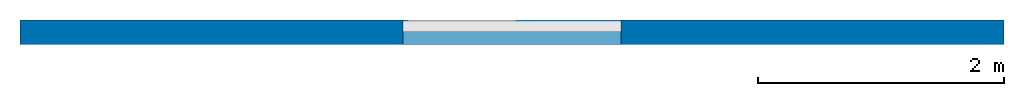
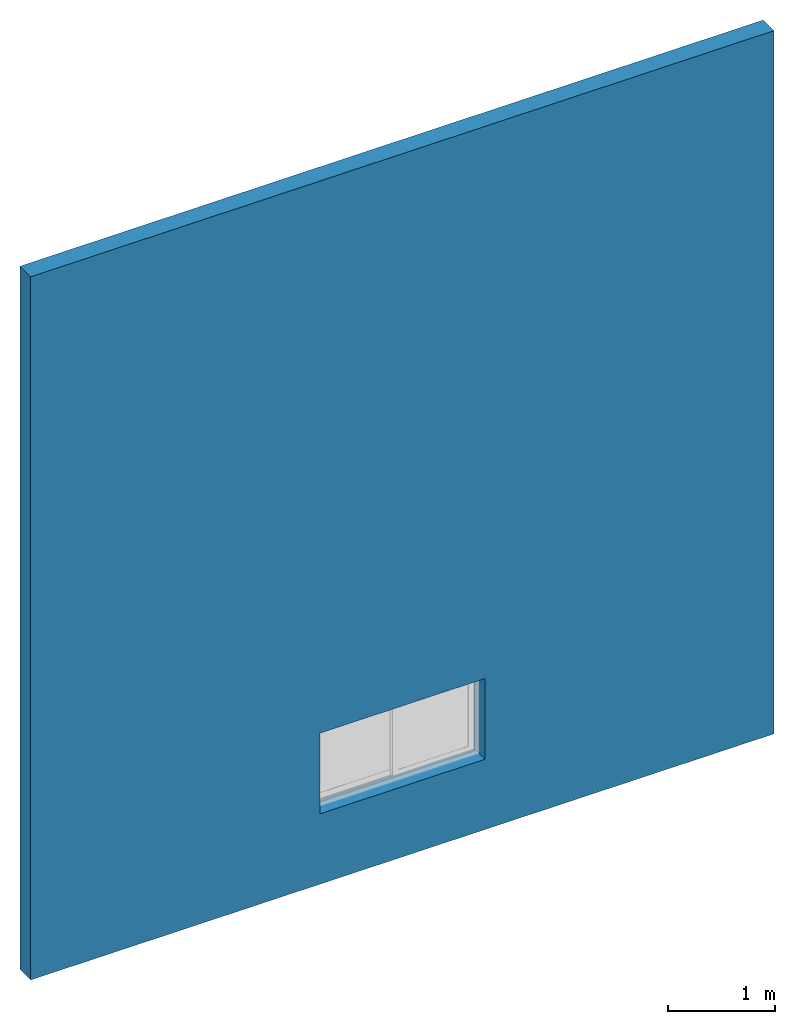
# One storey, incomplete: 1 wall, 1 opening.
"""IFC2X3 building model written with IfcOpenShell, lengths in millimetres."""

import ifcopenshell
import ifcopenshell.guid

model = None  # the IFC model being written
_history = None  # IfcOwnerHistory: only IFC2X3 demands one
_inside = {}  # id of a spatial element -> (the spatial element, [elements in it])
_under = {}  # id of a project, library or spatial element -> (it, [spatial elements below it])
_declared = {}  # id of a project -> (the project, [libraries it declares])
_typed = {}  # id of a type object -> (the type object, [elements of that type])
_made_of = {}  # id of a material, layer set ... -> (it, [elements and type objects made of it])


def new_model(schema):
    """Start an empty IFC model of exactly this schema.

    Asked for "IFC4X3", IfcOpenShell would pick the latest addendum, in which some entities
    have other attributes; the version numbers below select the first issue.
    IFC2X3 requires an IfcOwnerHistory on every rooted entity: one is made here for all.
    """
    global model, _history
    if schema == "IFC4X3":
        model = ifcopenshell.file(schema_version=(4, 3, 0, 0))
    else:
        model = ifcopenshell.file(schema=schema)
    _inside.clear()
    _under.clear()
    _declared.clear()
    _typed.clear()
    _made_of.clear()
    _history = None
    if model.schema == "IFC2X3":
        org = make("IfcOrganization", Name="unknown")
        user = make(
            "IfcPersonAndOrganization",
            ThePerson=make("IfcPerson", FamilyName="unknown"),
            TheOrganization=org,
        )
        app = make(
            "IfcApplication",
            ApplicationDeveloper=org,
            Version="unknown",
            ApplicationFullName="unknown",
            ApplicationIdentifier="unknown",
        )
        _history = make(
            "IfcOwnerHistory",
            OwningUser=user,
            OwningApplication=app,
            ChangeAction="ADDED",
            CreationDate=0,
        )
    return model


def make(cls, **values):
    """One entity of the class cls with the attributes given. An attribute that is None is left unset."""
    return model.create_entity(
        cls, **{name: value for name, value in values.items() if value is not None}
    )


def entity(cls, *values):
    """Any entity or typed value of the class cls, its attributes in the order of the schema. None: left unset."""
    e = model.create_entity(cls)
    for i, value in enumerate(values):
        if value is not None:
            e[i] = value
    return e


def rooted(cls, **values):
    """An entity with a GlobalId (a new one), such as an element, a storey or a relation."""
    return make(cls, GlobalId=ifcopenshell.guid.new(), OwnerHistory=_history, **values)


def si_unit(unit_type, name, prefix=None):
    """IfcSIUnit, for example si_unit("LENGTHUNIT", "METRE", prefix="MILLI")."""
    return make("IfcSIUnit", UnitType=unit_type, Prefix=prefix, Name=name)


def converted_unit(unit_type, name, factor, base, dimensions=None, offset=None):
    """IfcConversionBasedUnit, such as the inch: factor (a typed value) times the base unit."""
    return make(
        "IfcConversionBasedUnit"
        if offset is None
        else "IfcConversionBasedUnitWithOffset",
        ConversionOffset=offset,
        Dimensions=None
        if dimensions is None
        else entity("IfcDimensionalExponents", *dimensions),
        UnitType=unit_type,
        Name=name,
        ConversionFactor=make(
            "IfcMeasureWithUnit", ValueComponent=factor, UnitComponent=base
        ),
    )


def derived_unit(unit_type, elements):
    """IfcDerivedUnit: a product of units, each with its exponent."""
    return make(
        "IfcDerivedUnit",
        Elements=[
            make("IfcDerivedUnitElement", Unit=unit, Exponent=power)
            for unit, power in elements
        ],
        UnitType=unit_type,
    )


def assignment(units):
    """IfcUnitAssignment: the units of a project."""
    return None if units is None else make("IfcUnitAssignment", Units=units)


def point(xyz):
    """IfcCartesianPoint."""
    return None if xyz is None else make("IfcCartesianPoint", Coordinates=xyz)


def direction(xyz):
    """IfcDirection."""
    return None if xyz is None else make("IfcDirection", DirectionRatios=xyz)


def frame(location, z_axis=None, x_axis=None):
    """IfcAxis2Placement3D, a coordinate frame: its origin and axes. An axis left out is left unset."""
    return make(
        "IfcAxis2Placement3D",
        Location=point(location),
        Axis=direction(z_axis),
        RefDirection=direction(x_axis),
    )


def frame_2d(location, x_axis=None):
    """IfcAxis2Placement2D, a coordinate frame in the plane: its origin and x axis."""
    return make(
        "IfcAxis2Placement2D", Location=point(location), RefDirection=direction(x_axis)
    )


def origin():
    """The frame at (0, 0, 0) with its axes left unset."""
    return frame((0.0, 0.0, 0.0))


def place(relative_to, where):
    """IfcLocalPlacement: puts the frame where relative to a parent placement (None: the world)."""
    return make(
        "IfcLocalPlacement", PlacementRelTo=relative_to, RelativePlacement=where
    )


def context(
    kind, dimensions, precision=None, world=None, true_north=None, identifier=None
):
    """IfcGeometricRepresentationContext, for example the 3D "Model" context."""
    return make(
        "IfcGeometricRepresentationContext",
        ContextIdentifier=identifier,
        ContextType=kind,
        CoordinateSpaceDimension=dimensions,
        Precision=precision,
        WorldCoordinateSystem=world,
        TrueNorth=true_north,
    )


def subcontext(parent, identifier, kind, view, scale=None):
    """IfcGeometricRepresentationSubContext, for example "Body" below "Model"."""
    return make(
        "IfcGeometricRepresentationSubContext",
        ContextIdentifier=identifier,
        ContextType=kind,
        ParentContext=parent,
        TargetScale=scale,
        TargetView=view,
    )


def project(units=None, contexts=None):
    """IfcProject with its units and contexts."""
    return rooted(
        "IfcProject",
        Name="project",
        RepresentationContexts=contexts,
        UnitsInContext=assignment(units),
    )


def spatial(cls, under=None, at=None, **own):
    """A site, building, storey or space (cls), placed at a placement, below another one or the project."""
    s = rooted(cls, ObjectPlacement=at, **own)
    if under is not None:
        _under.setdefault(under.id(), (under, []))[1].append(s)
    return s


def profile(cls, at=None, kind="AREA", **sizes):
    """A parametric profile (cls). Its sizes go by their IFC names, for example OverallWidth=200.0."""
    return make(cls, ProfileType=kind, Position=at, **sizes)


def rectangle(**sizes):
    """IfcRectangleProfileDef."""
    return profile("IfcRectangleProfileDef", **sizes)


def extrude(swept, where, along, depth):
    """IfcExtrudedAreaSolid: the profile swept, set in the frame where, extruded along a direction by depth."""
    return make(
        "IfcExtrudedAreaSolid",
        SweptArea=swept,
        Position=where,
        ExtrudedDirection=direction(along),
        Depth=depth,
    )


def shape(context_of_items, identifier, shape_type, items):
    """IfcShapeRepresentation: the items that make up one representation, for example the "Body"."""
    return make(
        "IfcShapeRepresentation",
        ContextOfItems=context_of_items,
        RepresentationIdentifier=identifier,
        RepresentationType=shape_type,
        Items=items,
    )


def material(Name=None, Category=None):
    """IfcMaterial."""
    return make("IfcMaterial", Name=Name, Category=Category)


def layer(
    of_material, thickness, ventilated=None, Name=None, Category=None, Priority=None
):
    """IfcMaterialLayer: one layer of a wall or slab, of a material (None: an air gap)."""
    return make(
        "IfcMaterialLayer",
        Material=of_material,
        LayerThickness=thickness,
        IsVentilated=ventilated,
        Name=Name,
        Category=Category,
        Priority=Priority,
    )


def layer_set(layers, Name=None):
    """IfcMaterialLayerSet."""
    return make("IfcMaterialLayerSet", MaterialLayers=layers, LayerSetName=Name)


def layer_usage(for_layer_set, set_direction, sense, offset, extent=None):
    """IfcMaterialLayerSetUsage: how a layer set lies in its element."""
    return make(
        "IfcMaterialLayerSetUsage",
        ForLayerSet=for_layer_set,
        LayerSetDirection=set_direction,
        DirectionSense=sense,
        OffsetFromReferenceLine=offset,
        ReferenceExtent=extent,
    )


def made_of(thing, what):
    """Note that an element or type object is made of a material, layer set ...; save() writes the relation."""
    if what is not None:
        _made_of.setdefault(what.id(), (what, []))[1].append(thing)
    return thing


def type_object(cls, material=None, **own):
    """A type object (cls), such as IfcWallType, which elements share."""
    return made_of(rooted(cls, **own), material)


def element(
    cls,
    number,
    at=None,
    inside=None,
    cuts=None,
    type_object=None,
    material=None,
    context=None,
    identifier="Body",
    shape_type=None,
    held_by="IfcProductDefinitionShape",
    body=None,
    shapes=None,
    **own,
):
    """One element of the class cls, such as IfcWall. Its Tag is "e" and its number.

    at: its placement. inside: the storey or other place that contains it. cuts: it is an
    opening in that element (IfcRelVoidsElement). A single representation is given by context,
    identifier, shape_type and body (its items); several are given by shapes. held_by: the class
    of the entity that holds the representations. save() writes the other relations.
    """
    e = rooted(cls, Tag="e%d" % number, ObjectPlacement=at, **own)
    if body is not None:
        shapes = [shape(context, identifier, shape_type, body)]
    if shapes is not None:
        e.Representation = make(held_by, Representations=shapes)
    if inside is not None:
        _inside.setdefault(inside.id(), (inside, []))[1].append(e)
    if cuts is not None:
        rooted(
            "IfcRelVoidsElement", RelatingBuildingElement=cuts, RelatedOpeningElement=e
        )
    if type_object is not None:
        _typed.setdefault(type_object.id(), (type_object, []))[1].append(e)
    return made_of(e, material)


def aggregate(whole, parts):
    """IfcRelAggregates: a whole, such as a stair, and the parts it consists of."""
    return rooted("IfcRelAggregates", RelatingObject=whole, RelatedObjects=parts)


def save(model, path):
    """Write the relations noted so far, then the file.

    IfcRelAggregates (storeys below a building ...), IfcRelContainedInSpatialStructure (elements
    in a storey), IfcRelDefinesByType, IfcRelAssociatesMaterial and IfcRelDeclares: one each for
    every whole, place, type object, material and project.
    """
    for whole, parts in _under.values():
        aggregate(whole, parts)
    for where, things in _inside.values():
        rooted(
            "IfcRelContainedInSpatialStructure",
            RelatedElements=things,
            RelatingStructure=where,
        )
    for kind, things in _typed.values():
        rooted("IfcRelDefinesByType", RelatedObjects=things, RelatingType=kind)
    for what, things in _made_of.values():
        rooted("IfcRelAssociatesMaterial", RelatedObjects=things, RelatingMaterial=what)
    for by, libraries in _declared.values():
        rooted("IfcRelDeclares", RelatingContext=by, RelatedDefinitions=libraries)
    model.write(path)


model = new_model("IFC2X3")

# Units and contexts
model_context = context("Model", 3, precision=0.01, world=origin(), true_north=direction((6.12303176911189e-17, 1.0)))
body_context = subcontext(model_context, "Body", "Model", "MODEL_VIEW")
ifc_project = project(units=[si_unit("LENGTHUNIT", "METRE", prefix="MILLI"), si_unit("AREAUNIT", "SQUARE_METRE"), si_unit("VOLUMEUNIT", "CUBIC_METRE"), converted_unit("PLANEANGLEUNIT", "DEGREE", entity("IfcRatioMeasure", 0.0174532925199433), si_unit("PLANEANGLEUNIT", "RADIAN"), dimensions=[0, 0, 0, 0, 0, 0, 0]), si_unit("MASSUNIT", "GRAM", prefix="KILO"), derived_unit("MASSDENSITYUNIT", [(si_unit("MASSUNIT", "GRAM", prefix="KILO"), 1), (si_unit("LENGTHUNIT", "METRE"), -3)]), si_unit("TIMEUNIT", "SECOND"), si_unit("FREQUENCYUNIT", "HERTZ"), si_unit("THERMODYNAMICTEMPERATUREUNIT", "DEGREE_CELSIUS"), derived_unit("THERMALTRANSMITTANCEUNIT", [(si_unit("MASSUNIT", "GRAM", prefix="KILO"), 1), (si_unit("THERMODYNAMICTEMPERATUREUNIT", "KELVIN"), -1), (si_unit("TIMEUNIT", "SECOND"), -3)]), derived_unit("VOLUMETRICFLOWRATEUNIT", [(si_unit("LENGTHUNIT", "METRE"), 3), (si_unit("TIMEUNIT", "SECOND"), -1)]), si_unit("ELECTRICCURRENTUNIT", "AMPERE"), si_unit("ELECTRICVOLTAGEUNIT", "VOLT"), si_unit("POWERUNIT", "WATT"), si_unit("FORCEUNIT", "NEWTON", prefix="KILO"), si_unit("ILLUMINANCEUNIT", "LUX"), si_unit("LUMINOUSFLUXUNIT", "LUMEN"), si_unit("LUMINOUSINTENSITYUNIT", "CANDELA"), derived_unit("USERDEFINED", [(si_unit("MASSUNIT", "GRAM", prefix="KILO"), -1), (si_unit("LENGTHUNIT", "METRE"), -2), (si_unit("TIMEUNIT", "SECOND"), 3), (si_unit("LUMINOUSFLUXUNIT", "LUMEN"), 1)]), derived_unit("LINEARVELOCITYUNIT", [(si_unit("LENGTHUNIT", "METRE"), 1), (si_unit("TIMEUNIT", "SECOND"), -1)]), si_unit("PRESSUREUNIT", "PASCAL"), derived_unit("USERDEFINED", [(si_unit("LENGTHUNIT", "METRE"), -2), (si_unit("MASSUNIT", "GRAM", prefix="KILO"), 1), (si_unit("TIMEUNIT", "SECOND"), -2)])], contexts=[model_context])

# Site, building, storey
site_placement = place(None, origin())
site = spatial("IfcSite", under=ifc_project, at=site_placement, Name="Default", CompositionType="ELEMENT")
building_placement = place(site_placement, origin())
building = spatial("IfcBuilding", under=site, at=building_placement, CompositionType="ELEMENT")
storey_placement = place(building_placement, origin())
storey = spatial("IfcBuildingStorey", under=building, at=storey_placement, Name="Nivel 1", CompositionType="ELEMENT", Elevation=0.0)

# Wall, opening
ifc_material = material(Name="Muro por defecto")
ifc_layer = layer(ifc_material, 200.0)
ifc_layer_set = layer_set([ifc_layer], Name="Muro básico:Genérico - 200 mm")
ifc_layer_usage = layer_usage(ifc_layer_set, "AXIS2", "NEGATIVE", 100.0)
wall_type = type_object("IfcWallType", Name="Muro básico:Genérico - 200 mm", PredefinedType="STANDARD", material=ifc_layer_set)
wall_placement = place(storey_placement, frame((-4421.30528361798, 588.871867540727, 0.0)))
wall = element("IfcWallStandardCase", 1, at=wall_placement, inside=storey, type_object=wall_type, material=ifc_layer_usage, Name="Muro básico:Genérico - 200 mm", ObjectType="Muro básico:Genérico - 200 mm:398", context=body_context, shape_type="SweptSolid", body=[
    extrude(rectangle(XDim=8000.0, YDim=200.0, at=frame_2d((4000.0, -1.4210854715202e-14), x_axis=(-1.0, 0.0))), origin(), (0.0, 0.0, 1.0), 8000.0),
])
opening_placement = place(wall_placement, origin())
element("IfcOpeningElement", 2, at=opening_placement, cuts=wall, Name="Muro básico:Genérico - 200 mm", ObjectType="Opening", context=body_context, shape_type="SweptSolid", body=[
    extrude(rectangle(XDim=917.999999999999, YDim=1774.0, at=frame_2d((8.5265128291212e-14, 0.0), x_axis=(1.0, 0.0))), frame((4000.0, -1424.0, 1259.0), z_axis=(0.0, 1.0, 0.0), x_axis=(0.0, 0.0, -1.0)), (0.0, 0.0, 1.0), 3048.0),
])

save(model, "model.ifc")
